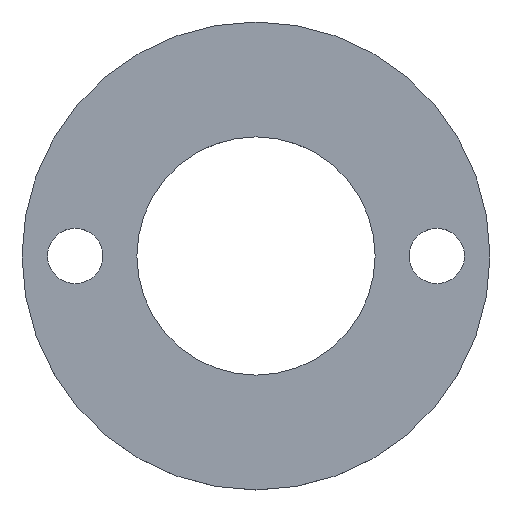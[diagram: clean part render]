
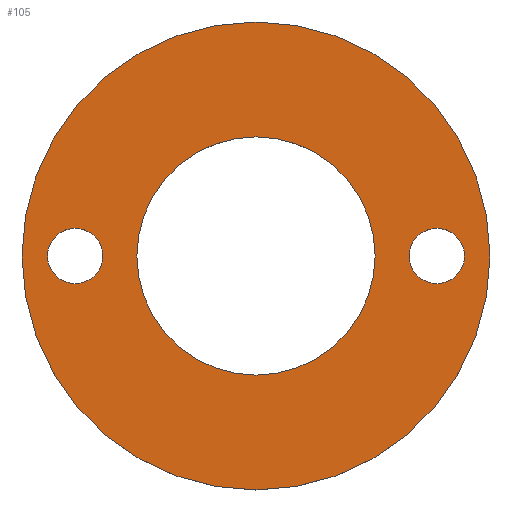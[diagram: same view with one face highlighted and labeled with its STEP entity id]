
A CAD part, top view. The second image highlights one B-rep face of the part: STEP entity #105.
In plain terms, the highlighted planar face has unit normal (0, 0, 1).
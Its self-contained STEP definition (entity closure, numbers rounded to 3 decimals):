
#21 = EDGE_CURVE('',#22,#22,#24,.T.);
#22 = VERTEX_POINT('',#23);
#23 = CARTESIAN_POINT('',(5.5,0.,18.45));
#24 = SURFACE_CURVE('',#25,(#30,#42),.PCURVE_S1.);
#25 = CIRCLE('',#26,5.5);
#26 = AXIS2_PLACEMENT_3D('',#27,#28,#29);
#27 = CARTESIAN_POINT('',(0.,0.,18.45));
#28 = DIRECTION('',(0.,0.,1.));
#29 = DIRECTION('',(1.,0.,-0.));
#30 = PCURVE('',#31,#36);
#31 = CYLINDRICAL_SURFACE('',#32,5.5);
#32 = AXIS2_PLACEMENT_3D('',#33,#34,#35);
#33 = CARTESIAN_POINT('',(0.,0.,17.9));
#34 = DIRECTION('',(0.,0.,1.));
#35 = DIRECTION('',(1.,0.,-0.));
#36 = DEFINITIONAL_REPRESENTATION('',(#37),#41);
#37 = LINE('',#38,#39);
#38 = CARTESIAN_POINT('',(0.,0.55));
#39 = VECTOR('',#40,1.);
#40 = DIRECTION('',(1.,0.));
#41 = ( GEOMETRIC_REPRESENTATION_CONTEXT(2) 
PARAMETRIC_REPRESENTATION_CONTEXT() REPRESENTATION_CONTEXT('2D SPACE',''
  ) );
#42 = PCURVE('',#43,#48);
#43 = PLANE('',#44);
#44 = AXIS2_PLACEMENT_3D('',#45,#46,#47);
#45 = CARTESIAN_POINT('',(0.,0.,18.45));
#46 = DIRECTION('',(0.,0.,1.));
#47 = DIRECTION('',(1.,0.,-0.));
#48 = DEFINITIONAL_REPRESENTATION('',(#49),#53);
#49 = CIRCLE('',#50,5.5);
#50 = AXIS2_PLACEMENT_2D('',#51,#52);
#51 = CARTESIAN_POINT('',(0.,0.));
#52 = DIRECTION('',(1.,0.));
#53 = ( GEOMETRIC_REPRESENTATION_CONTEXT(2) 
PARAMETRIC_REPRESENTATION_CONTEXT() REPRESENTATION_CONTEXT('2D SPACE',''
  ) );
#105 = ADVANCED_FACE('',(#106,#109,#140,#171),#43,.T.);
#106 = FACE_BOUND('',#107,.T.);
#107 = EDGE_LOOP('',(#108));
#108 = ORIENTED_EDGE('',*,*,#21,.T.);
#109 = FACE_BOUND('',#110,.T.);
#110 = EDGE_LOOP('',(#111));
#111 = ORIENTED_EDGE('',*,*,#112,.F.);
#112 = EDGE_CURVE('',#113,#113,#115,.T.);
#113 = VERTEX_POINT('',#114);
#114 = CARTESIAN_POINT('',(-3.6,0.,18.45));
#115 = SURFACE_CURVE('',#116,(#121,#128),.PCURVE_S1.);
#116 = CIRCLE('',#117,0.65);
#117 = AXIS2_PLACEMENT_3D('',#118,#119,#120);
#118 = CARTESIAN_POINT('',(-4.25,0.,18.45));
#119 = DIRECTION('',(0.,0.,1.));
#120 = DIRECTION('',(1.,0.,-0.));
#121 = PCURVE('',#43,#122);
#122 = DEFINITIONAL_REPRESENTATION('',(#123),#127);
#123 = CIRCLE('',#124,0.65);
#124 = AXIS2_PLACEMENT_2D('',#125,#126);
#125 = CARTESIAN_POINT('',(-4.25,0.));
#126 = DIRECTION('',(1.,0.));
#127 = ( GEOMETRIC_REPRESENTATION_CONTEXT(2) 
PARAMETRIC_REPRESENTATION_CONTEXT() REPRESENTATION_CONTEXT('2D SPACE',''
  ) );
#128 = PCURVE('',#129,#134);
#129 = CYLINDRICAL_SURFACE('',#130,0.65);
#130 = AXIS2_PLACEMENT_3D('',#131,#132,#133);
#131 = CARTESIAN_POINT('',(-4.25,0.,17.89));
#132 = DIRECTION('',(0.,0.,1.));
#133 = DIRECTION('',(1.,0.,-0.));
#134 = DEFINITIONAL_REPRESENTATION('',(#135),#139);
#135 = LINE('',#136,#137);
#136 = CARTESIAN_POINT('',(0.,0.56));
#137 = VECTOR('',#138,1.);
#138 = DIRECTION('',(1.,0.));
#139 = ( GEOMETRIC_REPRESENTATION_CONTEXT(2) 
PARAMETRIC_REPRESENTATION_CONTEXT() REPRESENTATION_CONTEXT('2D SPACE',''
  ) );
#140 = FACE_BOUND('',#141,.T.);
#141 = EDGE_LOOP('',(#142));
#142 = ORIENTED_EDGE('',*,*,#143,.F.);
#143 = EDGE_CURVE('',#144,#144,#146,.T.);
#144 = VERTEX_POINT('',#145);
#145 = CARTESIAN_POINT('',(2.8,0.,18.45));
#146 = SURFACE_CURVE('',#147,(#152,#159),.PCURVE_S1.);
#147 = CIRCLE('',#148,2.8);
#148 = AXIS2_PLACEMENT_3D('',#149,#150,#151);
#149 = CARTESIAN_POINT('',(0.,0.,18.45));
#150 = DIRECTION('',(0.,0.,1.));
#151 = DIRECTION('',(1.,0.,-0.));
#152 = PCURVE('',#43,#153);
#153 = DEFINITIONAL_REPRESENTATION('',(#154),#158);
#154 = CIRCLE('',#155,2.8);
#155 = AXIS2_PLACEMENT_2D('',#156,#157);
#156 = CARTESIAN_POINT('',(0.,0.));
#157 = DIRECTION('',(1.,0.));
#158 = ( GEOMETRIC_REPRESENTATION_CONTEXT(2) 
PARAMETRIC_REPRESENTATION_CONTEXT() REPRESENTATION_CONTEXT('2D SPACE',''
  ) );
#159 = PCURVE('',#160,#165);
#160 = CYLINDRICAL_SURFACE('',#161,2.8);
#161 = AXIS2_PLACEMENT_3D('',#162,#163,#164);
#162 = CARTESIAN_POINT('',(0.,0.,17.89));
#163 = DIRECTION('',(0.,0.,1.));
#164 = DIRECTION('',(1.,0.,-0.));
#165 = DEFINITIONAL_REPRESENTATION('',(#166),#170);
#166 = LINE('',#167,#168);
#167 = CARTESIAN_POINT('',(0.,0.56));
#168 = VECTOR('',#169,1.);
#169 = DIRECTION('',(1.,0.));
#170 = ( GEOMETRIC_REPRESENTATION_CONTEXT(2) 
PARAMETRIC_REPRESENTATION_CONTEXT() REPRESENTATION_CONTEXT('2D SPACE',''
  ) );
#171 = FACE_BOUND('',#172,.T.);
#172 = EDGE_LOOP('',(#173));
#173 = ORIENTED_EDGE('',*,*,#174,.F.);
#174 = EDGE_CURVE('',#175,#175,#177,.T.);
#175 = VERTEX_POINT('',#176);
#176 = CARTESIAN_POINT('',(4.9,0.,18.45));
#177 = SURFACE_CURVE('',#178,(#183,#190),.PCURVE_S1.);
#178 = CIRCLE('',#179,0.65);
#179 = AXIS2_PLACEMENT_3D('',#180,#181,#182);
#180 = CARTESIAN_POINT('',(4.25,0.,18.45));
#181 = DIRECTION('',(0.,0.,1.));
#182 = DIRECTION('',(1.,0.,-0.));
#183 = PCURVE('',#43,#184);
#184 = DEFINITIONAL_REPRESENTATION('',(#185),#189);
#185 = CIRCLE('',#186,0.65);
#186 = AXIS2_PLACEMENT_2D('',#187,#188);
#187 = CARTESIAN_POINT('',(4.25,0.));
#188 = DIRECTION('',(1.,0.));
#189 = ( GEOMETRIC_REPRESENTATION_CONTEXT(2) 
PARAMETRIC_REPRESENTATION_CONTEXT() REPRESENTATION_CONTEXT('2D SPACE',''
  ) );
#190 = PCURVE('',#191,#196);
#191 = CYLINDRICAL_SURFACE('',#192,0.65);
#192 = AXIS2_PLACEMENT_3D('',#193,#194,#195);
#193 = CARTESIAN_POINT('',(4.25,0.,17.89));
#194 = DIRECTION('',(0.,0.,1.));
#195 = DIRECTION('',(1.,0.,-0.));
#196 = DEFINITIONAL_REPRESENTATION('',(#197),#201);
#197 = LINE('',#198,#199);
#198 = CARTESIAN_POINT('',(0.,0.56));
#199 = VECTOR('',#200,1.);
#200 = DIRECTION('',(1.,0.));
#201 = ( GEOMETRIC_REPRESENTATION_CONTEXT(2) 
PARAMETRIC_REPRESENTATION_CONTEXT() REPRESENTATION_CONTEXT('2D SPACE',''
  ) );
